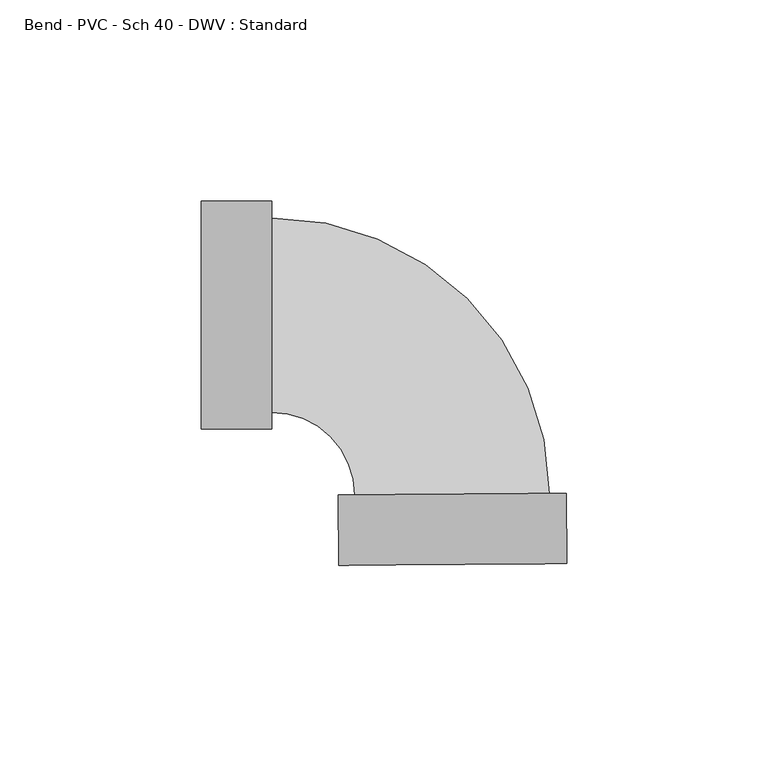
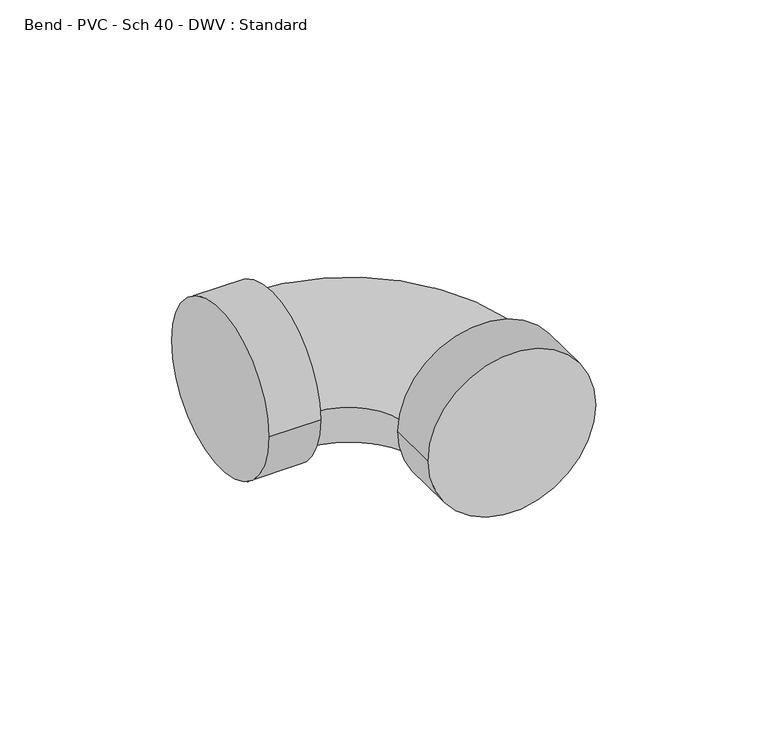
"""IFC4 building model written with IfcOpenShell, lengths in millimetres: pipe fitting geometry, Bend - PVC - Sch 40 - DWV : Standard."""

from ifc_helpers import new_model, si_unit, point, frame, origin, place, context, project, spatial, circle_curve, ellipse_curve, trimmed, source, transform, mapped, element, save
from ifc_brep_helpers import plane_surface, cylinder_surface, revolved_surface, advanced_brep


def bend_pvc_sch_40_dwv_standard_e4da6302(model_context):
    return source(origin(), model_context, "Body", "AdvancedBrep", [
        advanced_brep(
        [(-61.8998, 28.2829, 0.0), (-61.8998, -28.2829, 0.0), (-44.45, 28.2829, 0.0), (-44.45, -28.2829, 0.0), (-44.45, 24.13, 0.0), (-44.45, -24.13, 0.0), (-23.8019581, -44.6265189, 0.0), (24.4567329, -44.2710697, 0.0), (28.6095203, -44.2404824, 0.0), (-27.9547454, -44.6571063, 0.0), (28.7380432, -61.6898091, 0.0), (-27.8262225, -62.106433, 0.0)],
        [
            (0, 1, circle_curve(frame((-61.8998, 0.0, 0.0), z_axis=(-1.0, 0.0, 0.0), x_axis=(0.0, -1.0, 0.0)), 28.2829)),
            (1, 0, circle_curve(frame((-61.8998, 0.0, 0.0), z_axis=(-1.0, 0.0, 0.0), x_axis=(0.0, -1.0, 0.0)), 28.2829)),
            (2, 3, circle_curve(frame((-44.45, 0.0, 0.0), z_axis=(1.0, 0.0, 0.0), x_axis=(0.0, -1.0, 0.0)), 28.2829)),
            (3, 2, circle_curve(frame((-44.45, 0.0, 0.0), z_axis=(1.0, 0.0, 0.0), x_axis=(0.0, -1.0, 0.0)), 28.2829)),
            (4, 5, circle_curve(frame((-44.45, 0.0, 0.0), z_axis=(-1.0, 0.0, 0.0), x_axis=(0.0, -1.0, 0.0)), 24.13)),
            (5, 4, circle_curve(frame((-44.45, 0.0, 0.0), z_axis=(-1.0, 0.0, 0.0), x_axis=(0.0, -1.0, 0.0)), 24.13)),
            (1, 3),
            (2, 0),
            (6, 7, circle_curve(frame((0.3273874, -44.4487943, 0.0), z_axis=(-0.007365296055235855, 0.9999728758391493, 0.0), x_axis=(-0.9999728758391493, -0.007365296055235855, 0.0)), 24.13)),
            (7, 4, circle_curve(frame((-44.45, -44.778602, 0.0), z_axis=(0.0, 0.0, 1.0), x_axis=(0.0, 1.0, 0.0)), 68.908602)),
            (5, 6, circle_curve(frame((-44.45, -44.778602, 0.0), z_axis=(0.0, 0.0, -1.0), x_axis=(0.0, 1.0, 0.0)), 20.648602)),
            (7, 6, circle_curve(frame((0.3273874, -44.4487943, 0.0), z_axis=(-0.007365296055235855, 0.9999728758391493, 0.0), x_axis=(-0.9999728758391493, -0.007365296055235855, 0.0)), 24.13)),
            (8, 9, circle_curve(frame((0.3273874, -44.4487943, 0.0), z_axis=(-0.007365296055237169, 0.9999728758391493, 0.0), x_axis=(-0.9999728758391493, -0.007365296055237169, 0.0)), 28.2829)),
            (9, 8, circle_curve(frame((0.3273874, -44.4487943, 0.0), z_axis=(-0.007365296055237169, 0.9999728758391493, 0.0), x_axis=(-0.9999728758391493, -0.007365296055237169, 0.0)), 28.2829)),
            (10, 11, circle_curve(frame((0.4559104, -61.898121, 0.0), z_axis=(0.007365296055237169, -0.9999728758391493, 0.0), x_axis=(-0.9999728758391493, -0.007365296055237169, 0.0)), 28.2829)),
            (11, 10, circle_curve(frame((0.4559104, -61.898121, 0.0), z_axis=(0.007365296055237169, -0.9999728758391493, 0.0), x_axis=(-0.9999728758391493, -0.007365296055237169, 0.0)), 28.2829)),
            (9, 11),
            (10, 8),
        ],
        [
            plane_surface(frame((-61.8998, 0.0, 0.0), z_axis=(-1.0, 0.0, 0.0), x_axis=(0.0, 0.0, 1.0))),
            plane_surface(frame((-44.45, 0.0, 0.0), z_axis=(1.0, 0.0, 0.0), x_axis=(0.0, 0.0, 1.0))),
            cylinder_surface(frame((-61.8998, 0.0, 0.0), z_axis=(-1.0, 0.0, 0.0), x_axis=(0.0, -1.0, 0.0)), 28.2829),
            revolved_surface(trimmed(ellipse_curve(frame((-44.45, 0.0, 0.0), z_axis=(1.0, 0.0, 0.0), x_axis=(0.0, -1.0, 0.0)), 24.13, 24.13), [point((-44.45, 24.13, 0.0))], [point((-44.45, -24.13, 0.0))], True, "CARTESIAN"), (-44.45, -44.778602, 0.0), (0.0, 0.0, 1.0)),
            revolved_surface(trimmed(ellipse_curve(frame((-44.45, 0.0, 0.0), z_axis=(1.0, 0.0, 0.0), x_axis=(0.0, -1.0, 0.0)), 24.13, 24.13), [point((-44.45, -24.13, 0.0))], [point((-44.45, 24.13, 0.0))], True, "CARTESIAN"), (-44.45, -44.778602, 0.0), (0.0, 0.0, 1.0)),
            plane_surface(frame((0.3273874, -44.4487943, 0.0), z_axis=(-0.007365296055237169, 0.9999728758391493, 0.0), x_axis=(0.0, 0.0, 1.0))),
            plane_surface(frame((0.4559104, -61.898121, 0.0), z_axis=(0.007365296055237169, -0.9999728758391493, 0.0), x_axis=(0.0, 0.0, 1.0))),
            cylinder_surface(frame((0.3273874, -44.4487943, 0.0), z_axis=(-0.007365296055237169, 0.9999728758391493, 0.0), x_axis=(-0.9999728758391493, -0.007365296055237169, 0.0)), 28.2829),
        ],
        [
            (0, [[1, 2]]),
            (1, [[3, 4], [5, 6]]),
            (2, [[7, -3, 8, -2]]),
            (2, [[-8, -4, -7, -1]]),
            (3, [[9, 10, -6, 11]]),
            (4, [[-5, -10, 12, -11]]),
            (5, [[13, 14], [-12, -9]]),
            (6, [[15, 16]]),
            (7, [[17, -15, 18, -14]]),
            (7, [[-18, -16, -17, -13]]),
        ],
    ),
    ])


if __name__ == "__main__":
    model = new_model("IFC4")
    model_context = context("Model", 3, world=origin())
    ifc_project = project(units=[si_unit("LENGTHUNIT", "METRE", prefix="MILLI")], contexts=[model_context])
    site = spatial("IfcSite", under=ifc_project)
    building = spatial("IfcBuilding", under=site)
    placement = place(None, origin())
    bend_pvc_sch_40_dwv_standard_shape = bend_pvc_sch_40_dwv_standard_e4da6302(model_context)
    element("IfcPipeFitting", 1, ObjectType="Bend - PVC - Sch 40 - DWV : Standard", at=placement, inside=building, context=model_context, shape_type="MappedRepresentation", body=[
        mapped(bend_pvc_sch_40_dwv_standard_shape, transform((0.0, 0.0, 0.0), x_axis=(1.0, 0.0, 0.0), y_axis=(0.0, 1.0, 0.0), z_axis=(0.0, 0.0, 1.0))),
    ])
    save(model, "model.ifc")
